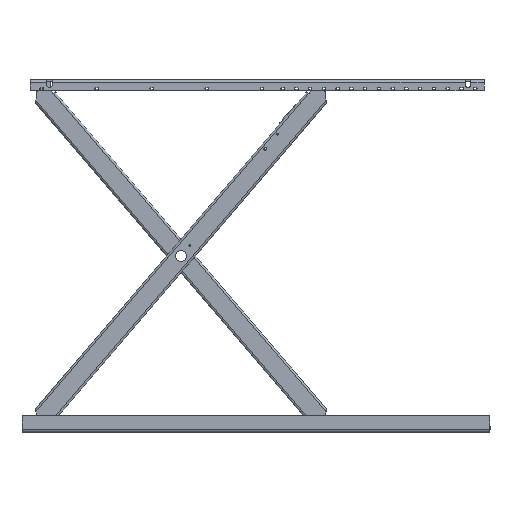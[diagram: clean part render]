
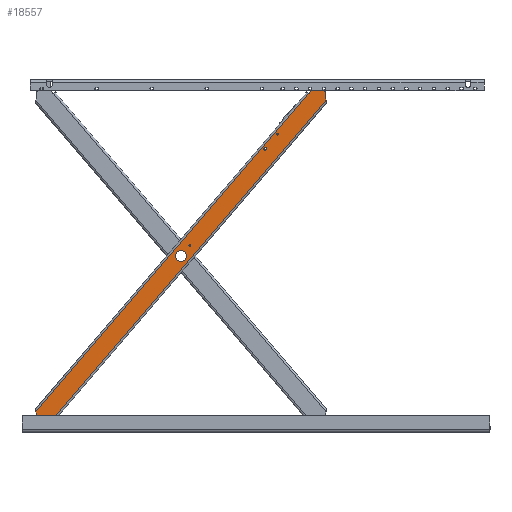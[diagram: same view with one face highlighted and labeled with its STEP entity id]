
A CAD part, front view. The second image highlights one B-rep face of the part: STEP entity #18557.
In plain terms, the highlighted planar face has unit normal (-0.001, -1, 0) as drawn and (1, 0, 0) by its records, which use the part's own axes.
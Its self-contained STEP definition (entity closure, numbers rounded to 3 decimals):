
#543=FACE_BOUND('',#3119,.T.);
#544=FACE_BOUND('',#3120,.T.);
#545=FACE_BOUND('',#3121,.T.);
#546=FACE_BOUND('',#3122,.T.);
#547=FACE_BOUND('',#3123,.T.);
#548=FACE_BOUND('',#3124,.T.);
#1020=PLANE('',#20558);
#1922=FACE_OUTER_BOUND('',#3118,.T.);
#3118=EDGE_LOOP('',(#16560,#16561,#16562,#16563,#16564,#16565,#16566,#16567,
#16568,#16569,#16570,#16571,#16572,#16573));
#3119=EDGE_LOOP('',(#16574));
#3120=EDGE_LOOP('',(#16575));
#3121=EDGE_LOOP('',(#16576));
#3122=EDGE_LOOP('',(#16577));
#3123=EDGE_LOOP('',(#16578));
#3124=EDGE_LOOP('',(#16579));
#4764=LINE('',#31413,#6422);
#4767=LINE('',#31427,#6425);
#4768=LINE('',#31431,#6426);
#4769=LINE('',#31435,#6427);
#4770=LINE('',#31437,#6428);
#4771=LINE('',#31441,#6429);
#4772=LINE('',#31445,#6430);
#4773=LINE('',#31448,#6431);
#6422=VECTOR('',#25665,10.);
#6425=VECTOR('',#25680,10.);
#6426=VECTOR('',#25683,10.);
#6427=VECTOR('',#25686,10.);
#6428=VECTOR('',#25687,10.);
#6429=VECTOR('',#25690,10.);
#6430=VECTOR('',#25693,10.);
#6431=VECTOR('',#25696,10.);
#7417=CIRCLE('',#20556,5.);
#7419=CIRCLE('',#20559,5.);
#7420=CIRCLE('',#20560,5.);
#7421=CIRCLE('',#20561,5.);
#7422=CIRCLE('',#20562,5.);
#7423=CIRCLE('',#20563,5.);
#7424=CIRCLE('',#20564,5.1);
#7425=CIRCLE('',#20565,3.7);
#7426=CIRCLE('',#20566,3.7);
#7427=CIRCLE('',#20567,5.1);
#7428=CIRCLE('',#20568,5.1);
#7429=CIRCLE('',#20569,20.);
#9081=VERTEX_POINT('',#31410);
#9082=VERTEX_POINT('',#31412);
#9085=VERTEX_POINT('',#31420);
#9087=VERTEX_POINT('',#31426);
#9088=VERTEX_POINT('',#31428);
#9089=VERTEX_POINT('',#31430);
#9090=VERTEX_POINT('',#31432);
#9091=VERTEX_POINT('',#31434);
#9092=VERTEX_POINT('',#31436);
#9093=VERTEX_POINT('',#31438);
#9094=VERTEX_POINT('',#31440);
#9095=VERTEX_POINT('',#31442);
#9096=VERTEX_POINT('',#31444);
#9097=VERTEX_POINT('',#31446);
#9098=VERTEX_POINT('',#31449);
#9099=VERTEX_POINT('',#31451);
#9100=VERTEX_POINT('',#31453);
#9101=VERTEX_POINT('',#31455);
#9102=VERTEX_POINT('',#31457);
#9103=VERTEX_POINT('',#31459);
#11621=EDGE_CURVE('',#9082,#9081,#4764,.T.);
#11625=EDGE_CURVE('',#9085,#9081,#7417,.T.);
#11628=EDGE_CURVE('',#9085,#9087,#4767,.T.);
#11629=EDGE_CURVE('',#9088,#9087,#7419,.T.);
#11630=EDGE_CURVE('',#9088,#9089,#4768,.T.);
#11631=EDGE_CURVE('',#9089,#9090,#7420,.F.);
#11632=EDGE_CURVE('',#9090,#9091,#4769,.T.);
#11633=EDGE_CURVE('',#9091,#9092,#4770,.T.);
#11634=EDGE_CURVE('',#9093,#9092,#7421,.T.);
#11635=EDGE_CURVE('',#9093,#9094,#4771,.T.);
#11636=EDGE_CURVE('',#9095,#9094,#7422,.T.);
#11637=EDGE_CURVE('',#9095,#9096,#4772,.T.);
#11638=EDGE_CURVE('',#9096,#9097,#7423,.F.);
#11639=EDGE_CURVE('',#9097,#9082,#4773,.T.);
#11640=EDGE_CURVE('',#9098,#9098,#7424,.T.);
#11641=EDGE_CURVE('',#9099,#9099,#7425,.T.);
#11642=EDGE_CURVE('',#9100,#9100,#7426,.T.);
#11643=EDGE_CURVE('',#9101,#9101,#7427,.T.);
#11644=EDGE_CURVE('',#9102,#9102,#7428,.T.);
#11645=EDGE_CURVE('',#9103,#9103,#7429,.T.);
#16560=ORIENTED_EDGE('',*,*,#11625,.F.);
#16561=ORIENTED_EDGE('',*,*,#11628,.T.);
#16562=ORIENTED_EDGE('',*,*,#11629,.F.);
#16563=ORIENTED_EDGE('',*,*,#11630,.T.);
#16564=ORIENTED_EDGE('',*,*,#11631,.T.);
#16565=ORIENTED_EDGE('',*,*,#11632,.T.);
#16566=ORIENTED_EDGE('',*,*,#11633,.T.);
#16567=ORIENTED_EDGE('',*,*,#11634,.F.);
#16568=ORIENTED_EDGE('',*,*,#11635,.T.);
#16569=ORIENTED_EDGE('',*,*,#11636,.F.);
#16570=ORIENTED_EDGE('',*,*,#11637,.T.);
#16571=ORIENTED_EDGE('',*,*,#11638,.T.);
#16572=ORIENTED_EDGE('',*,*,#11639,.T.);
#16573=ORIENTED_EDGE('',*,*,#11621,.T.);
#16574=ORIENTED_EDGE('',*,*,#11640,.T.);
#16575=ORIENTED_EDGE('',*,*,#11641,.T.);
#16576=ORIENTED_EDGE('',*,*,#11642,.T.);
#16577=ORIENTED_EDGE('',*,*,#11643,.T.);
#16578=ORIENTED_EDGE('',*,*,#11644,.T.);
#16579=ORIENTED_EDGE('',*,*,#11645,.T.);
#18557=ADVANCED_FACE('',(#1922,#543,#544,#545,#546,#547,#548),#1020,.T.);
#20556=AXIS2_PLACEMENT_3D('',#31421,#25673,#25674);
#20558=AXIS2_PLACEMENT_3D('',#31425,#25678,#25679);
#20559=AXIS2_PLACEMENT_3D('',#31429,#25681,#25682);
#20560=AXIS2_PLACEMENT_3D('',#31433,#25684,#25685);
#20561=AXIS2_PLACEMENT_3D('',#31439,#25688,#25689);
#20562=AXIS2_PLACEMENT_3D('',#31443,#25691,#25692);
#20563=AXIS2_PLACEMENT_3D('',#31447,#25694,#25695);
#20564=AXIS2_PLACEMENT_3D('',#31450,#25697,#25698);
#20565=AXIS2_PLACEMENT_3D('',#31452,#25699,#25700);
#20566=AXIS2_PLACEMENT_3D('',#31454,#25701,#25702);
#20567=AXIS2_PLACEMENT_3D('',#31456,#25703,#25704);
#20568=AXIS2_PLACEMENT_3D('',#31458,#25705,#25706);
#20569=AXIS2_PLACEMENT_3D('',#31460,#25707,#25708);
#25665=DIRECTION('',(0.,0.707,-0.707));
#25673=DIRECTION('center_axis',(-1.,0.,0.));
#25674=DIRECTION('ref_axis',(0.,-0.383,-0.924));
#25678=DIRECTION('center_axis',(1.,0.,0.));
#25679=DIRECTION('ref_axis',(0.,0.,-1.));
#25680=DIRECTION('',(0.,1.,0.));
#25681=DIRECTION('center_axis',(-1.,0.,0.));
#25682=DIRECTION('ref_axis',(0.,0.707,-0.707));
#25683=DIRECTION('',(0.,0.,1.));
#25684=DIRECTION('center_axis',(1.,0.,0.));
#25685=DIRECTION('ref_axis',(0.,-0.707,0.707));
#25686=DIRECTION('',(0.,0.,1.));
#25687=DIRECTION('',(0.,-0.707,0.707));
#25688=DIRECTION('center_axis',(-1.,0.,0.));
#25689=DIRECTION('ref_axis',(0.,0.383,0.924));
#25690=DIRECTION('',(0.,-1.,0.));
#25691=DIRECTION('center_axis',(-1.,0.,0.));
#25692=DIRECTION('ref_axis',(0.,-0.707,0.707));
#25693=DIRECTION('',(0.,0.,-1.));
#25694=DIRECTION('center_axis',(1.,0.,0.));
#25695=DIRECTION('ref_axis',(0.,0.707,-0.707));
#25696=DIRECTION('',(0.,0.,-1.));
#25697=DIRECTION('center_axis',(-1.,0.,0.));
#25698=DIRECTION('ref_axis',(0.,0.,-1.));
#25699=DIRECTION('center_axis',(-1.,0.,0.));
#25700=DIRECTION('ref_axis',(0.,0.,-1.));
#25701=DIRECTION('center_axis',(-1.,0.,0.));
#25702=DIRECTION('ref_axis',(0.,0.,-1.));
#25703=DIRECTION('center_axis',(-1.,0.,0.));
#25704=DIRECTION('ref_axis',(0.,0.,-1.));
#25705=DIRECTION('center_axis',(-1.,0.,0.));
#25706=DIRECTION('ref_axis',(0.,0.,-1.));
#25707=DIRECTION('center_axis',(-1.,0.,0.));
#25708=DIRECTION('ref_axis',(0.,0.,-1.));
#31410=CARTESIAN_POINT('',(20.,-11.464,-793.536));
#31412=CARTESIAN_POINT('',(20.,-32.,-773.));
#31413=CARTESIAN_POINT('',(20.,-198.25,-606.75));
#31420=CARTESIAN_POINT('',(20.,-7.929,-795.));
#31421=CARTESIAN_POINT('Origin',(20.,-7.929,-790.));
#31425=CARTESIAN_POINT('Origin',(20.,32.,0.));
#31426=CARTESIAN_POINT('',(20.,25.,-795.));
#31427=CARTESIAN_POINT('',(20.,32.,-795.));
#31428=CARTESIAN_POINT('',(20.,30.,-790.));
#31429=CARTESIAN_POINT('Origin',(20.,25.,-790.));
#31430=CARTESIAN_POINT('',(20.,30.,-755.));
#31431=CARTESIAN_POINT('',(20.,30.,-375.));
#31432=CARTESIAN_POINT('',(20.,32.,-751.));
#31433=CARTESIAN_POINT('Origin',(20.,35.,-755.));
#31434=CARTESIAN_POINT('',(20.,32.,773.));
#31435=CARTESIAN_POINT('',(20.,32.,0.));
#31436=CARTESIAN_POINT('',(20.,11.464,793.536));
#31437=CARTESIAN_POINT('',(20.,214.25,590.75));
#31438=CARTESIAN_POINT('',(20.,7.929,795.));
#31439=CARTESIAN_POINT('Origin',(20.,7.929,790.));
#31440=CARTESIAN_POINT('',(20.,-25.,795.));
#31441=CARTESIAN_POINT('',(20.,32.,795.));
#31442=CARTESIAN_POINT('',(20.,-30.,790.));
#31443=CARTESIAN_POINT('Origin',(20.,-25.,790.));
#31444=CARTESIAN_POINT('',(20.,-30.,755.));
#31445=CARTESIAN_POINT('',(20.,-30.,375.));
#31446=CARTESIAN_POINT('',(20.,-32.,751.));
#31447=CARTESIAN_POINT('Origin',(20.,-35.,755.));
#31448=CARTESIAN_POINT('',(20.,-32.,0.));
#31449=CARTESIAN_POINT('',(20.,21.,-500.1));
#31450=CARTESIAN_POINT('Origin',(20.,21.,-495.));
#31451=CARTESIAN_POINT('',(20.,0.,-53.7));
#31452=CARTESIAN_POINT('Origin',(20.,0.,-50.));
#31453=CARTESIAN_POINT('',(20.,21.,-568.7));
#31454=CARTESIAN_POINT('Origin',(20.,21.,-565.));
#31455=CARTESIAN_POINT('',(20.,17.,-790.1));
#31456=CARTESIAN_POINT('Origin',(20.,17.,-785.));
#31457=CARTESIAN_POINT('',(20.,-17.,779.9));
#31458=CARTESIAN_POINT('Origin',(20.,-17.,785.));
#31459=CARTESIAN_POINT('',(20.,0.,-20.));
#31460=CARTESIAN_POINT('Origin',(20.,0.,0.));
